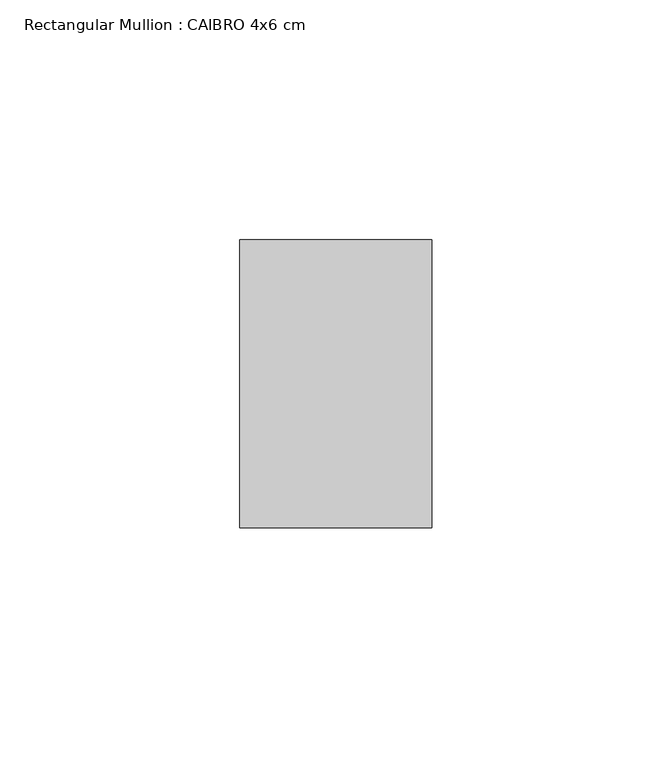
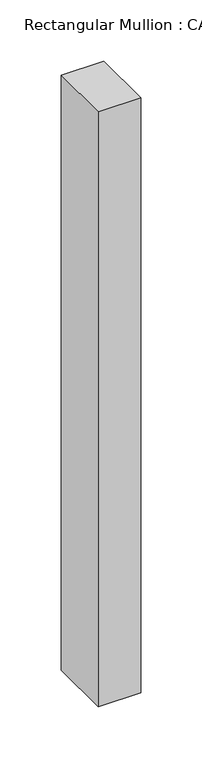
"""IFC4 building model written with IfcOpenShell, lengths in millimetres: member geometry, Rectangular Mullion : CAIBRO 4x6 cm."""

from ifc_helpers import new_model, si_unit, frame, origin, place, context, project, spatial, polyline, outline, extrude, source, transform, mapped, element, save


def rectangular_mullion_caibro_4x6_cm_e1b55397(model_context):
    return source(origin(), model_context, "Body", "SweptSolid", [
        extrude(outline(polyline([(0.0, 60.0), (0.0, 0.0), (-40.0, 0.0), (-40.0, 60.0), (0.0, 60.0)])), frame((0.0, 0.0, -591.7124525), z_axis=(0.0, 0.0, 1.0), x_axis=(1.0, 0.0, 0.0)), (0.0, 0.0, 1.0), 591.7124525),
    ])


if __name__ == "__main__":
    model = new_model("IFC4")
    model_context = context("Model", 3, world=origin())
    ifc_project = project(units=[si_unit("LENGTHUNIT", "METRE", prefix="MILLI")], contexts=[model_context])
    site = spatial("IfcSite", under=ifc_project)
    building = spatial("IfcBuilding", under=site)
    placement = place(None, origin())
    rectangular_mullion_caibro_4x6_cm_shape = rectangular_mullion_caibro_4x6_cm_e1b55397(model_context)
    element("IfcMember", 1, ObjectType="Rectangular Mullion : CAIBRO 4x6 cm", at=placement, inside=building, context=model_context, shape_type="MappedRepresentation", body=[
        mapped(rectangular_mullion_caibro_4x6_cm_shape, transform((0.0, 0.0, 0.0), x_axis=(1.0, 0.0, 0.0), y_axis=(0.0, 1.0, 0.0), z_axis=(0.0, 0.0, 1.0))),
    ])
    save(model, "model.ifc")
